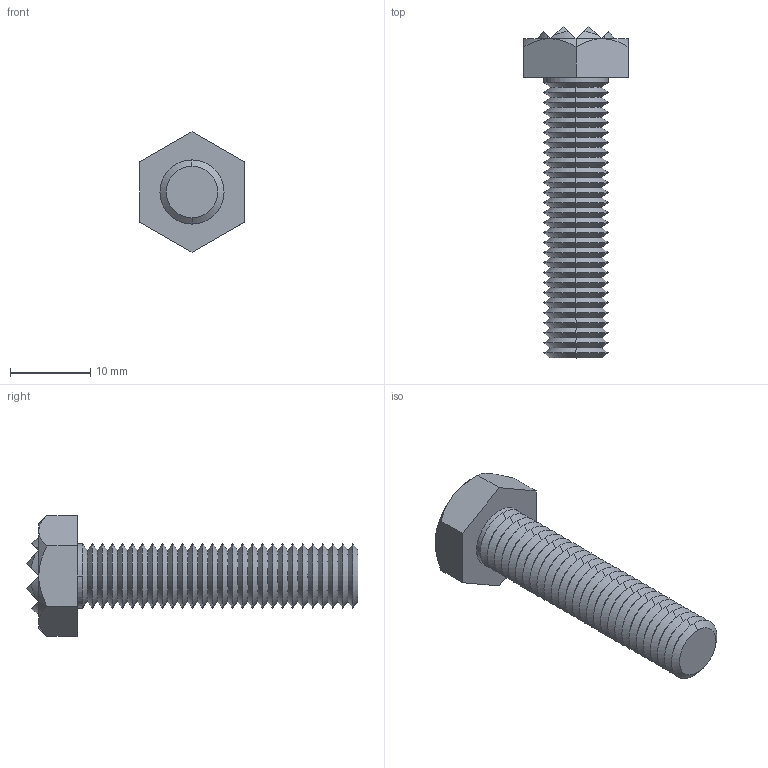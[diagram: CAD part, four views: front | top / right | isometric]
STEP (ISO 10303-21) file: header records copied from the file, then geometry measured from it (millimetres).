
FILE_DESCRIPTION (( 'STEP AP203' ), '1' );
FILE_NAME ('35400.W0005.step', '2017-07-03T07:20:44', ( 'User' ), ( '' ), 'SwSTEP 2.0', 'SolidWorks 2009', '' );
FILE_SCHEMA (( 'CONFIG_CONTROL_DESIGN' ));
Length unit declared in the file: millimetre
Products named in the file (1): 35400.W0005
Bounding box: 13 x 41.4 x 15.01 mm (x, y, z)
Volume: 2176 mm3; surface area: 1780 mm2
Topology: 1 solids, 1 shells, 188 faces, 364 edges, 180 vertices
Faces by surface type: cone 129, plane 57, cylinder 2
Entity records: 4688 total; most frequent: CARTESIAN_POINT 905, DIRECTION 833, ORIENTED_EDGE 728, EDGE_CURVE 364, AXIS2_PLACEMENT_3D 324, EDGE_LOOP 190, ADVANCED_FACE 188, FACE_OUTER_BOUND 188
